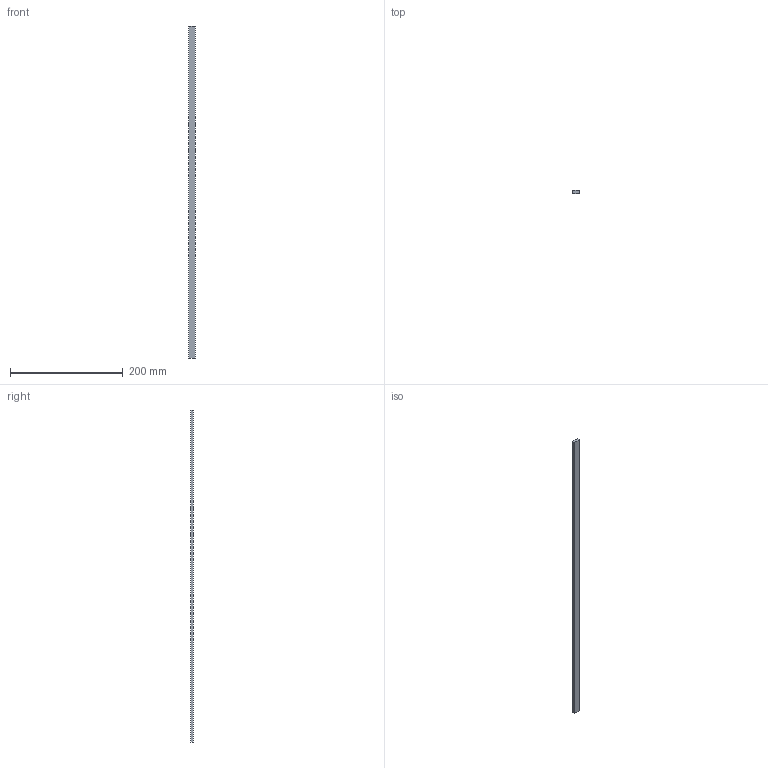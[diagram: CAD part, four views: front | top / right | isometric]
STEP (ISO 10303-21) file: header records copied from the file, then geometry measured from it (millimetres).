
FILE_DESCRIPTION (( 'STEP AP203' ), '1' );
FILE_NAME ('DN51382.STEP', '2025-10-31T07:26:14', ( '' ), ( '' ), 'SwSTEP 2.0', 'SolidWorks 2019', '' );
FILE_SCHEMA (( 'CONFIG_CONTROL_DESIGN' ));
Length unit declared in the file: millimetre
Products named in the file (1): DN51382
Bounding box: 12 x 5 x 590 mm (x, y, z)
Volume: 35400 mm3; surface area: 20180 mm2
Topology: 1 solids, 1 shells, 6 faces, 12 edges, 8 vertices
Faces by surface type: plane 6
Entity records: 233 total; most frequent: CARTESIAN_POINT 27, DIRECTION 26, ORIENTED_EDGE 24, EDGE_CURVE 12, LINE 12, VECTOR 12, PERSON_AND_ORGANIZATION 8, VERTEX_POINT 8
